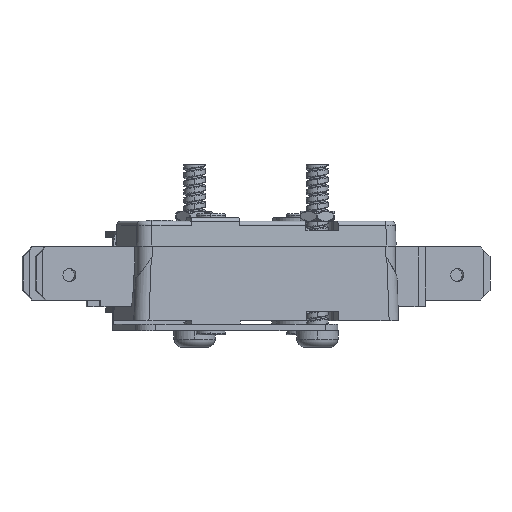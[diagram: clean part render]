
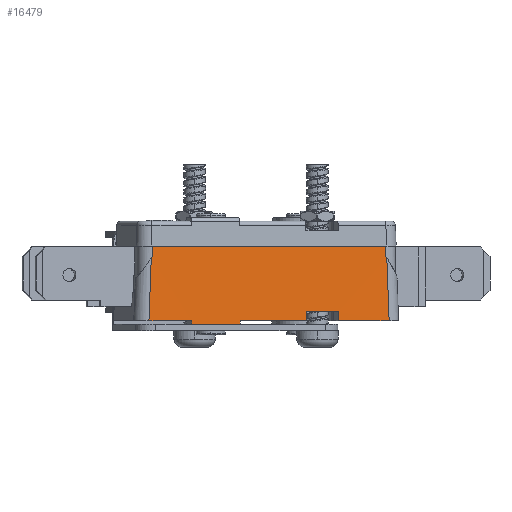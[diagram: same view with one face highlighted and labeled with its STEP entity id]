
A CAD part, left-side view. The second image highlights one B-rep face of the part: STEP entity #16479.
In plain terms, the highlighted planar face has unit normal (-0.97, -0.243, 0).
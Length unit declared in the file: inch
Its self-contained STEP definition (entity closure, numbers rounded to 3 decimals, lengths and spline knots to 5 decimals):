
#734=DIRECTION('',(-0.243,0.97,0.));
#735=VECTOR('',#734,29.);
#736=CARTESIAN_POINT('',(5.43792,0.00217,5.4391));
#737=LINE('',#736,#735);
#759=CARTESIAN_POINT('',(5.43792,0.00217,4.1891));
#760=CARTESIAN_POINT('',(5.44082,-0.00941,4.17119));
#761=CARTESIAN_POINT('',(5.44678,-0.03249,4.13544));
#762=CARTESIAN_POINT('',(5.45469,-0.06727,4.08198));
#763=CARTESIAN_POINT('',(5.46231,-0.08974,4.04642));
#764=CARTESIAN_POINT('',(5.46518,-0.10122,4.02867));
#766=DIRECTION('',(0.009,-0.037,-0.999));
#767=VECTOR('',#766,7.59518);
#768=CARTESIAN_POINT('',(5.46518,-0.10122,4.02867));
#769=LINE('',#768,#767);
#770=DIRECTION('',(0.,0.,1.));
#771=VECTOR('',#770,1.1);
#772=CARTESIAN_POINT('',(4.00332,5.7251,-3.5609));
#773=LINE('',#772,#771);
#774=DIRECTION('',(0.,0.,-1.));
#775=VECTOR('',#774,1.1);
#776=CARTESIAN_POINT('',(3.03071,9.60505,-2.4609));
#777=LINE('',#776,#775);
#778=DIRECTION('',(0.,0.,-1.));
#779=VECTOR('',#778,0.4);
#780=CARTESIAN_POINT('',(1.03686,17.55895,-3.5609));
#781=LINE('',#780,#779);
#782=DIRECTION('',(-0.243,0.97,0.));
#783=VECTOR('',#782,6.);
#784=CARTESIAN_POINT('',(1.03686,17.55895,-3.9609));
#785=LINE('',#784,#783);
#786=DIRECTION('',(0.,0.,1.));
#787=VECTOR('',#786,0.4);
#788=CARTESIAN_POINT('',(-0.42206,23.37888,
-3.9609));
#789=LINE('',#788,#787);
#790=DIRECTION('',(0.01,-0.037,0.999));
#791=VECTOR('',#790,7.59518);
#792=CARTESIAN_POINT('',(-1.71047,28.51865,-3.5609));
#793=LINE('',#792,#791);
#798=DIRECTION('',(0.,0.,1.));
#799=VECTOR('',#798,1.25);
#800=CARTESIAN_POINT('',(5.43792,0.00217,4.1891));
#801=LINE('',#800,#799);
#2729=DIRECTION('',(0.243,-0.97,0.));
#2730=VECTOR('',#2729,5.2988);
#2731=CARTESIAN_POINT('',(-1.71047,28.51865,
-3.5609));
#2732=LINE('',#2731,#2730);
#2751=DIRECTION('',(0.243,-0.97,0.));
#2752=VECTOR('',#2751,8.2);
#2753=CARTESIAN_POINT('',(1.03686,17.55895,-3.5609));
#2754=LINE('',#2753,#2752);
#2773=DIRECTION('',(0.243,-0.97,0.));
#2774=VECTOR('',#2773,6.2988);
#2775=CARTESIAN_POINT('',(4.00332,5.7251,-3.5609));
#2776=LINE('',#2775,#2774);
#8838=DIRECTION('',(0.243,-0.97,0.));
#8839=VECTOR('',#8838,4.);
#8840=CARTESIAN_POINT('',(3.03071,9.60505,-2.4609));
#8841=LINE('',#8840,#8839);
#12721=DIRECTION('',(0.,0.,-1.));
#12722=VECTOR('',#12721,1.25);
#12723=CARTESIAN_POINT('',(-1.6135,28.13182,
5.4391));
#12724=LINE('',#12723,#12722);
#12725=CARTESIAN_POINT('',(-1.6135,28.13182,
4.1891));
#12726=CARTESIAN_POINT('',(-1.61639,28.14333,
4.1713));
#12727=CARTESIAN_POINT('',(-1.62199,28.1664,
4.13569));
#12728=CARTESIAN_POINT('',(-1.6314,28.20072,
4.08223));
#12729=CARTESIAN_POINT('',(-1.63533,28.22427,
4.04653));
#12730=CARTESIAN_POINT('',(-1.63823,28.23585,
4.02867));
#13243=CARTESIAN_POINT('',(5.43792,0.00217,
5.4391));
#13244=CARTESIAN_POINT('',(-1.6135,28.13182,
5.4391));
#13245=VERTEX_POINT('',#13243);
#13246=VERTEX_POINT('',#13244);
#13264=CARTESIAN_POINT('',(5.43792,0.00217,
4.1891));
#13265=VERTEX_POINT('',#13264);
#13266=VERTEX_POINT('',#764);
#13267=CARTESIAN_POINT('',(5.53489,-0.38466,
-3.5609));
#13268=VERTEX_POINT('',#13267);
#13269=CARTESIAN_POINT('',(4.00332,5.7251,
-3.5609));
#13270=VERTEX_POINT('',#13269);
#13271=CARTESIAN_POINT('',(4.00332,5.7251,
-2.4609));
#13272=VERTEX_POINT('',#13271);
#13273=CARTESIAN_POINT('',(3.03071,9.60505,
-2.4609));
#13274=VERTEX_POINT('',#13273);
#13275=CARTESIAN_POINT('',(3.03071,9.60505,
-3.5609));
#13276=VERTEX_POINT('',#13275);
#13277=CARTESIAN_POINT('',(1.03686,17.55895,
-3.5609));
#13278=VERTEX_POINT('',#13277);
#13279=CARTESIAN_POINT('',(1.03686,17.55895,
-3.9609));
#13280=VERTEX_POINT('',#13279);
#13281=CARTESIAN_POINT('',(-0.42206,23.37888,
-3.9609));
#13282=VERTEX_POINT('',#13281);
#13283=CARTESIAN_POINT('',(-0.42206,23.37888,
-3.5609));
#13284=VERTEX_POINT('',#13283);
#13285=CARTESIAN_POINT('',(-1.71047,28.51865,
-3.5609));
#13286=VERTEX_POINT('',#13285);
#13287=CARTESIAN_POINT('',(-1.63823,28.23585,
4.02867));
#13288=VERTEX_POINT('',#13287);
#13289=VERTEX_POINT('',#12725);
#16441=CARTESIAN_POINT('',(1.91221,14.067,
0.7391));
#16442=DIRECTION('',(0.97,0.243,0.));
#16443=DIRECTION('',(0.243,-0.97,0.));
#16444=AXIS2_PLACEMENT_3D('',#16441,#16442,#16443);
#16445=PLANE('',#16444);
#16446=ORIENTED_EDGE('',*,*,#16416,.F.);
#16448=ORIENTED_EDGE('',*,*,#16447,.F.);
#16450=ORIENTED_EDGE('',*,*,#16449,.T.);
#16452=ORIENTED_EDGE('',*,*,#16451,.T.);
#16454=ORIENTED_EDGE('',*,*,#16453,.F.);
#16456=ORIENTED_EDGE('',*,*,#16455,.T.);
#16458=ORIENTED_EDGE('',*,*,#16457,.F.);
#16460=ORIENTED_EDGE('',*,*,#16459,.T.);
#16462=ORIENTED_EDGE('',*,*,#16461,.F.);
#16464=ORIENTED_EDGE('',*,*,#16463,.T.);
#16466=ORIENTED_EDGE('',*,*,#16465,.T.);
#16468=ORIENTED_EDGE('',*,*,#16467,.T.);
#16470=ORIENTED_EDGE('',*,*,#16469,.F.);
#16472=ORIENTED_EDGE('',*,*,#16471,.T.);
#16474=ORIENTED_EDGE('',*,*,#16473,.F.);
#16476=ORIENTED_EDGE('',*,*,#16475,.F.);
#16477=EDGE_LOOP('',(#16446,#16448,#16450,#16452,#16454,#16456,#16458,#16460,
#16462,#16464,#16466,#16468,#16470,#16472,#16474,#16476));
#16478=FACE_OUTER_BOUND('',#16477,.F.);
#16479=ADVANCED_FACE('',(#16478),#16445,.F.);
#765=B_SPLINE_CURVE_WITH_KNOTS('',3,(#759,#760,#761,#762,#763,#764),
.UNSPECIFIED.,.F.,.F.,(4,1,1,4),(0.,0.33333,0.66667,1.),
.UNSPECIFIED.);
#12731=B_SPLINE_CURVE_WITH_KNOTS('',3,(#12725,#12726,#12727,#12728,#12729,
#12730),.UNSPECIFIED.,.F.,.F.,(4,1,1,4),(0.,0.33333,
0.66667,1.),.UNSPECIFIED.);
#16416=EDGE_CURVE('',#13245,#13246,#737,.T.);
#16447=EDGE_CURVE('',#13265,#13245,#801,.T.);
#16449=EDGE_CURVE('',#13265,#13266,#765,.T.);
#16451=EDGE_CURVE('',#13266,#13268,#769,.T.);
#16453=EDGE_CURVE('',#13270,#13268,#2776,.T.);
#16455=EDGE_CURVE('',#13270,#13272,#773,.T.);
#16457=EDGE_CURVE('',#13274,#13272,#8841,.T.);
#16459=EDGE_CURVE('',#13274,#13276,#777,.T.);
#16461=EDGE_CURVE('',#13278,#13276,#2754,.T.);
#16463=EDGE_CURVE('',#13278,#13280,#781,.T.);
#16465=EDGE_CURVE('',#13280,#13282,#785,.T.);
#16467=EDGE_CURVE('',#13282,#13284,#789,.T.);
#16469=EDGE_CURVE('',#13286,#13284,#2732,.T.);
#16471=EDGE_CURVE('',#13286,#13288,#793,.T.);
#16473=EDGE_CURVE('',#13289,#13288,#12731,.T.);
#16475=EDGE_CURVE('',#13246,#13289,#12724,.T.);
